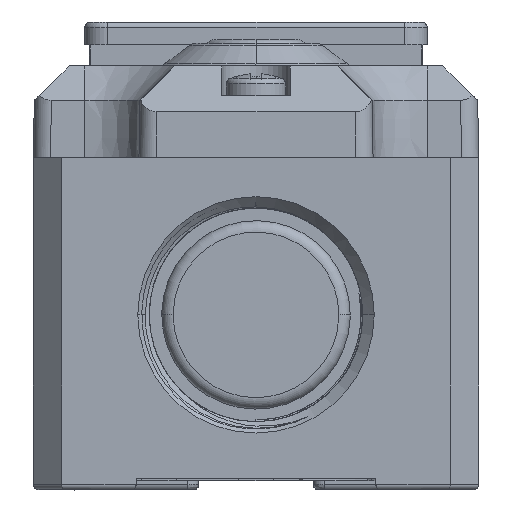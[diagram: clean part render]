
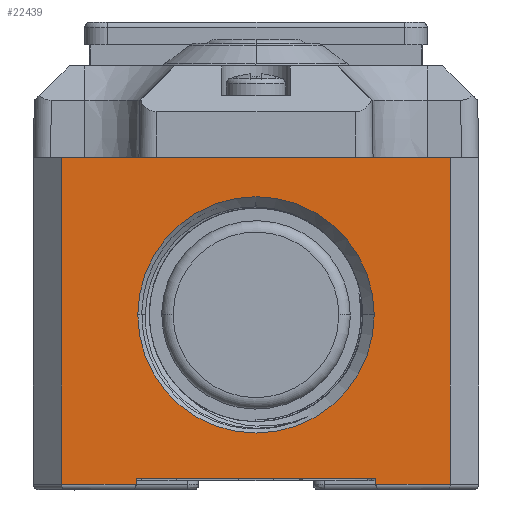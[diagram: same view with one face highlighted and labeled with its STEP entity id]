
A CAD part, front view. The second image highlights one B-rep face of the part: STEP entity #22439.
In plain terms, the highlighted planar face has unit normal (0, -1, 0).
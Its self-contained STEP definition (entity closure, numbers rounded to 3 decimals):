
#4329=DIRECTION('',(1.,0.,0.));
#4330=VECTOR('',#4329,6.501);
#4331=CARTESIAN_POINT('',(310.499,-120.638,
-0.481));
#4332=LINE('',#4331,#4330);
#4346=DIRECTION('',(-1.,0.,0.));
#4347=VECTOR('',#4346,20.998);
#4348=CARTESIAN_POINT('',(310.499,-120.638,
0.059));
#4349=LINE('',#4348,#4347);
#4350=DIRECTION('',(0.,0.,-1.));
#4351=VECTOR('',#4350,0.54);
#4352=CARTESIAN_POINT('',(289.501,-120.638,
0.059));
#4353=LINE('',#4352,#4351);
#4354=DIRECTION('',(0.,0.,1.));
#4355=VECTOR('',#4354,28.631);
#4356=CARTESIAN_POINT('',(283.,-120.638,-0.481));
#4357=LINE('',#4356,#4355);
#4358=DIRECTION('',(1.,0.,0.));
#4359=VECTOR('',#4358,34.);
#4360=CARTESIAN_POINT('',(283.,-120.638,28.15));
#4361=LINE('',#4360,#4359);
#4362=DIRECTION('',(0.,0.,-1.));
#4363=VECTOR('',#4362,28.631);
#4364=CARTESIAN_POINT('',(317.,-120.638,28.15));
#4365=LINE('',#4364,#4363);
#4366=CARTESIAN_POINT('',(300.,-120.638,14.354));
#4367=DIRECTION('',(0.,-1.,0.));
#4368=DIRECTION('',(-1.,0.,0.));
#4369=AXIS2_PLACEMENT_3D('',#4366,#4367,#4368);
#4371=CARTESIAN_POINT('',(300.,-120.638,14.354));
#4372=DIRECTION('',(0.,-1.,0.));
#4373=DIRECTION('',(0.,0.,-1.));
#4374=AXIS2_PLACEMENT_3D('',#4371,#4372,#4373);
#4376=CARTESIAN_POINT('',(300.,-120.638,14.354));
#4377=DIRECTION('',(0.,-1.,0.));
#4378=DIRECTION('',(1.,0.,0.));
#4379=AXIS2_PLACEMENT_3D('',#4376,#4377,#4378);
#4381=CARTESIAN_POINT('',(300.,-120.638,14.354));
#4382=DIRECTION('',(0.,-1.,0.));
#4383=DIRECTION('',(0.,0.,1.));
#4384=AXIS2_PLACEMENT_3D('',#4381,#4382,#4383);
#4386=DIRECTION('',(0.,0.,-1.));
#4387=VECTOR('',#4386,0.54);
#4388=CARTESIAN_POINT('',(310.499,-120.638,
0.059));
#4389=LINE('',#4388,#4387);
#7829=DIRECTION('',(1.,0.,0.));
#7830=VECTOR('',#7829,6.501);
#7831=CARTESIAN_POINT('',(283.,-120.638,-0.481));
#7832=LINE('',#7831,#7830);
#15793=CARTESIAN_POINT('',(283.,-120.638,-0.481));
#15794=VERTEX_POINT('',#15793);
#15795=CARTESIAN_POINT('',(283.,-120.638,28.15));
#15796=VERTEX_POINT('',#15795);
#15811=CARTESIAN_POINT('',(317.,-120.638,28.15));
#15812=VERTEX_POINT('',#15811);
#16476=CARTESIAN_POINT('',(317.,-120.638,-0.481));
#16477=VERTEX_POINT('',#16476);
#16530=CARTESIAN_POINT('',(310.499,-120.638,
-0.481));
#16531=VERTEX_POINT('',#16530);
#16536=CARTESIAN_POINT('',(310.499,-120.638,
0.059));
#16537=VERTEX_POINT('',#16536);
#16538=CARTESIAN_POINT('',(289.501,-120.638,
0.059));
#16539=VERTEX_POINT('',#16538);
#16540=CARTESIAN_POINT('',(289.501,-120.638,
-0.481));
#16541=VERTEX_POINT('',#16540);
#16542=CARTESIAN_POINT('',(289.65,-120.638,14.354));
#16543=CARTESIAN_POINT('',(300.,-120.638,4.004));
#16544=VERTEX_POINT('',#16542);
#16545=VERTEX_POINT('',#16543);
#16546=CARTESIAN_POINT('',(310.35,-120.638,14.354));
#16547=VERTEX_POINT('',#16546);
#16548=CARTESIAN_POINT('',(300.,-120.638,24.704));
#16549=VERTEX_POINT('',#16548);
#22407=CARTESIAN_POINT('',(317.,-120.638,0.059));
#22408=DIRECTION('',(0.,-1.,0.));
#22409=DIRECTION('',(1.,0.,0.));
#22410=AXIS2_PLACEMENT_3D('',#22407,#22408,#22409);
#22411=PLANE('',#22410);
#22412=ORIENTED_EDGE('',*,*,#22398,.F.);
#22414=ORIENTED_EDGE('',*,*,#22413,.F.);
#22416=ORIENTED_EDGE('',*,*,#22415,.T.);
#22418=ORIENTED_EDGE('',*,*,#22417,.T.);
#22420=ORIENTED_EDGE('',*,*,#22419,.F.);
#22422=ORIENTED_EDGE('',*,*,#22421,.T.);
#22424=ORIENTED_EDGE('',*,*,#22423,.T.);
#22426=ORIENTED_EDGE('',*,*,#22425,.T.);
#22427=EDGE_LOOP('',(#22412,#22414,#22416,#22418,#22420,#22422,#22424,#22426));
#22428=FACE_OUTER_BOUND('',#22427,.F.);
#22430=ORIENTED_EDGE('',*,*,#22429,.T.);
#22432=ORIENTED_EDGE('',*,*,#22431,.T.);
#22434=ORIENTED_EDGE('',*,*,#22433,.T.);
#22436=ORIENTED_EDGE('',*,*,#22435,.T.);
#22437=EDGE_LOOP('',(#22430,#22432,#22434,#22436));
#22438=FACE_BOUND('',#22437,.F.);
#4370=CIRCLE('',#4369,10.35);
#4375=CIRCLE('',#4374,10.35);
#4380=CIRCLE('',#4379,10.35);
#4385=CIRCLE('',#4384,10.35);
#22398=EDGE_CURVE('',#16531,#16477,#4332,.T.);
#22413=EDGE_CURVE('',#16537,#16531,#4389,.T.);
#22415=EDGE_CURVE('',#16537,#16539,#4349,.T.);
#22417=EDGE_CURVE('',#16539,#16541,#4353,.T.);
#22419=EDGE_CURVE('',#15794,#16541,#7832,.T.);
#22421=EDGE_CURVE('',#15794,#15796,#4357,.T.);
#22423=EDGE_CURVE('',#15796,#15812,#4361,.T.);
#22425=EDGE_CURVE('',#15812,#16477,#4365,.T.);
#22429=EDGE_CURVE('',#16544,#16545,#4370,.T.);
#22431=EDGE_CURVE('',#16545,#16547,#4375,.T.);
#22433=EDGE_CURVE('',#16547,#16549,#4380,.T.);
#22435=EDGE_CURVE('',#16549,#16544,#4385,.T.);
#22439=ADVANCED_FACE('',(#22428,#22438),#22411,.T.);
